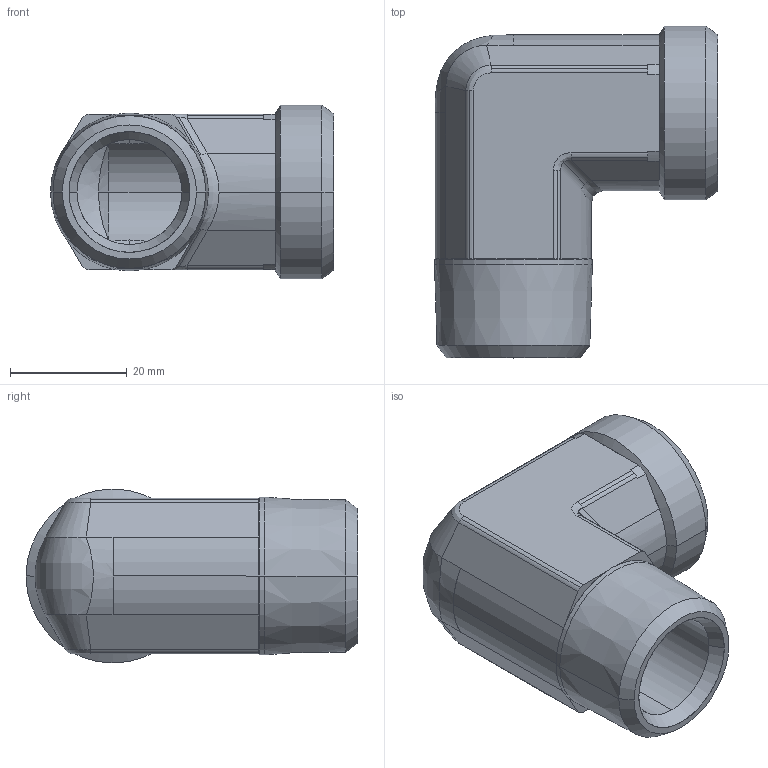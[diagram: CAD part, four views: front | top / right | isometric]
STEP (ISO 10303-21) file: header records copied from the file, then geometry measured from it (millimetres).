
FILE_DESCRIPTION((''),'2;1');
FILE_NAME('102010.stp','2007-10-30T16:28:51',(''),(''),'AutoCAD STEP 2000i','AutoCAD 2000i',', , ');
FILE_SCHEMA(('CONFIG_CONTROL_DESIGN'));
Length unit declared in the file: millimetre
Products named in the file (2): 102010.0; 3090#0
Assembly tree (1 placements, depth 2):
  102010.0
    3090#0
Bounding box: 48.53 x 56.91 x 29.82 mm (x, y, z)
Volume: 24285 mm3; surface area: 11756.4 mm2
Topology: 1 solids, 1 shells, 110 faces, 264 edges, 159 vertices
Faces by surface type: cylinder 46, plane 29, cone 21, bspline 14
Entity records: 4237 total; most frequent: CARTESIAN_POINT 1576, DIRECTION 558, ORIENTED_EDGE 528, EDGE_CURVE 264, AXIS2_PLACEMENT_3D 225, VERTEX_POINT 159, CIRCLE 117, EDGE_LOOP 115
